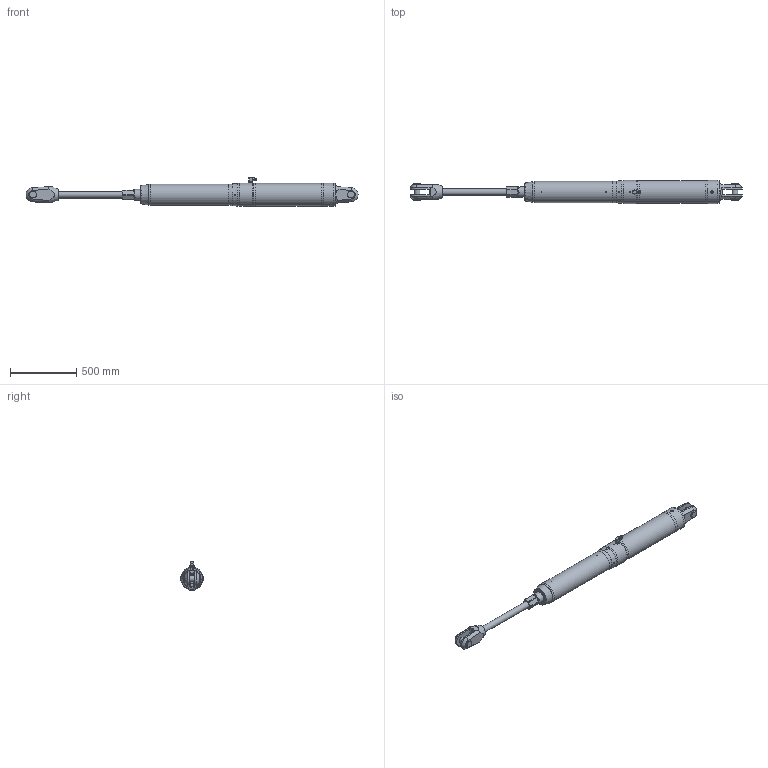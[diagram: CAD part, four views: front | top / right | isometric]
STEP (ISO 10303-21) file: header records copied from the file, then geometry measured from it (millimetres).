
FILE_DESCRIPTION(/* description */ (''),/* implementation_level */ '2;1');
FILE_NAME(/* name */ 'Q:\AA BRAND HYDRAULICS\HYDRAULICS FAMILY DIRECTORY\HYDRAULICS\CYLINDERS\MECHANICAL LOCK RAMS\ALUMINIUM - STAINLESS SINGLE ACTING (-0012 To -0150)\MSA-0150-S0475-NP-71\MSA-0150-S0475-NP-71 (Open).stp',/* time_stamp */ '2018-04-25T17:34:25+01:00',/* author */ ('Lorena'),/* organization */ (''),/* preprocessor_version */ 'ST-DEVELOPER v17',/* originating_system */ 'Autodesk Inventor 2018',/* authorisation */ '');
FILE_SCHEMA (('AUTOMOTIVE_DESIGN { 1 0 10303 214 3 1 1 }'));
Length unit declared in the file: millimetre
Products named in the file (1): MSA-0150-S0475-NP-71 (Open)
Bounding box: 2512.42 x 174.4 x 216.3 mm (x, y, z)
Volume: 36626538.6 mm3; surface area: 1149687.6 mm2
Topology: 2 solids, 4 shells, 495 faces, 1298 edges, 848 vertices
Faces by surface type: plane 281, cone 123, cylinder 77, torus 6, sphere 4, bspline 4
Full cylindrical faces by diameter (mm): 4 x1, 4.2 x4, 5 x2, 7 x1, 9 x1, 9.9 x1, 10 x6, 11.1 x1, 18.9 x1, 19 x3, 19.11 x1, 19.9 x1, 20 x1, 20.9 x2, 22 x2, 24 x2, 27.8 x3, 30 x1, 44.45 x2, 49 x1, 55.562 x2, 80 x2, 81 x2, 84 x1, 160 x1, 171.4 x1, 174.4 x4
Entity records: 17009 total; most frequent: CARTESIAN_POINT 4417, ORIENTED_EDGE 2580, DIRECTION 2514, EDGE_CURVE 1290, AXIS2_PLACEMENT_3D 966, VERTEX_POINT 849, LINE 582, VECTOR 582
